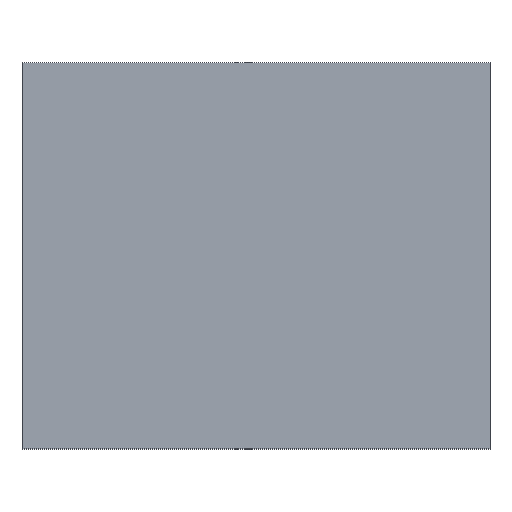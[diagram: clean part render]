
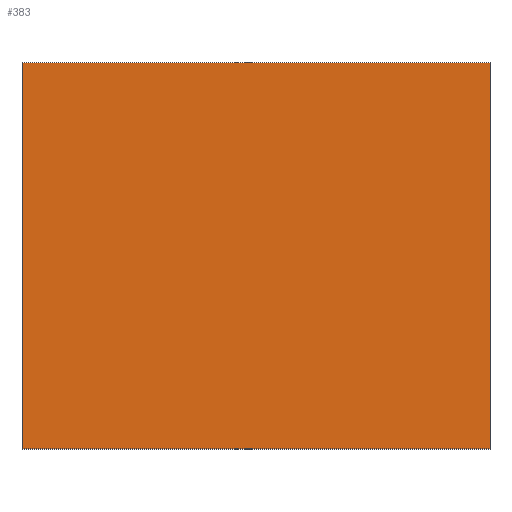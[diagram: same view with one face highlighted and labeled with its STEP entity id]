
A CAD part, top view. The second image highlights one B-rep face of the part: STEP entity #383.
In plain terms, the highlighted planar face has unit normal (0, 0, 1).
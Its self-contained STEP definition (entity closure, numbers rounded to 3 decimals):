
#12 = VERTEX_POINT ( 'NONE', #583 ) ;
#29 = EDGE_CURVE ( 'NONE', #389, #312, #713, .T. ) ;
#43 = EDGE_CURVE ( 'NONE', #256, #312, #331, .T. ) ;
#54 = EDGE_CURVE ( 'NONE', #12, #389, #232, .T. ) ;
#73 = FACE_OUTER_BOUND ( 'NONE', #86, .T. ) ;
#79 = DIRECTION ( 'NONE',  ( 0., -1., 0. ) ) ;
#86 = EDGE_LOOP ( 'NONE', ( #422, #219, #269, #560 ) ) ;
#91 = AXIS2_PLACEMENT_3D ( 'NONE', #213, #474, #585 ) ;
#98 = CARTESIAN_POINT ( 'NONE',  ( 0., -16.5, 16.5 ) ) ;
#135 = LINE ( 'NONE', #466, #605 ) ;
#200 = DIRECTION ( 'NONE',  ( -1., 0., 0. ) ) ;
#213 = CARTESIAN_POINT ( 'NONE',  ( 40., -16.5, 16.5 ) ) ;
#219 = ORIENTED_EDGE ( 'NONE', *, *, #43, .F. ) ;
#227 = PLANE ( 'NONE',  #91 ) ;
#232 = LINE ( 'NONE', #239, #618 ) ;
#239 = CARTESIAN_POINT ( 'NONE',  ( 40., 16.5, 16.5 ) ) ;
#256 = VERTEX_POINT ( 'NONE', #442 ) ;
#266 = CARTESIAN_POINT ( 'NONE',  ( 0., -16.5, 16.5 ) ) ;
#269 = ORIENTED_EDGE ( 'NONE', *, *, #402, .F. ) ;
#274 = CARTESIAN_POINT ( 'NONE',  ( 40., -16.5, 16.5 ) ) ;
#312 = VERTEX_POINT ( 'NONE', #98 ) ;
#331 = LINE ( 'NONE', #274, #670 ) ;
#383 = ADVANCED_FACE ( 'NONE', ( #73 ), #227, .F. ) ;
#389 = VERTEX_POINT ( 'NONE', #694 ) ;
#402 = EDGE_CURVE ( 'NONE', #12, #256, #135, .T. ) ;
#422 = ORIENTED_EDGE ( 'NONE', *, *, #29, .T. ) ;
#442 = CARTESIAN_POINT ( 'NONE',  ( 40., -16.5, 16.5 ) ) ;
#466 = CARTESIAN_POINT ( 'NONE',  ( 40., -16.5, 16.5 ) ) ;
#474 = DIRECTION ( 'NONE',  ( 0., 0., -1. ) ) ;
#487 = DIRECTION ( 'NONE',  ( -1., 0., 0. ) ) ;
#560 = ORIENTED_EDGE ( 'NONE', *, *, #54, .T. ) ;
#583 = CARTESIAN_POINT ( 'NONE',  ( 40., 16.5, 16.5 ) ) ;
#585 = DIRECTION ( 'NONE',  ( -1., 0., 0. ) ) ;
#602 = VECTOR ( 'NONE', #638, 1000. ) ;
#605 = VECTOR ( 'NONE', #79, 1000. ) ;
#618 = VECTOR ( 'NONE', #487, 1000. ) ;
#638 = DIRECTION ( 'NONE',  ( 0., -1., 0. ) ) ;
#670 = VECTOR ( 'NONE', #200, 1000. ) ;
#694 = CARTESIAN_POINT ( 'NONE',  ( 0., 16.5, 16.5 ) ) ;
#713 = LINE ( 'NONE', #266, #602 ) ;
